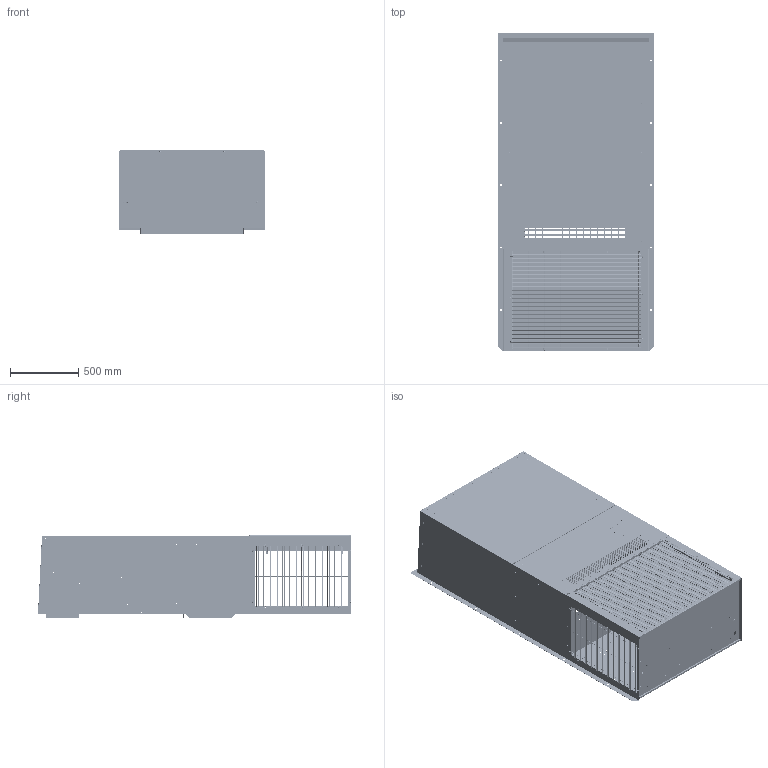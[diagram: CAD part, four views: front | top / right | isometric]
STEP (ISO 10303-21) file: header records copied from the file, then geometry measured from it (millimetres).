
FILE_DESCRIPTION (( 'STEP AP214' ), '1' );
FILE_NAME ('MAA1060.STEP', '2019-10-22T18:00:32', ( '' ), ( '' ), 'SwSTEP 2.0', 'SolidWorks 2016', '' );
FILE_SCHEMA (( 'AUTOMOTIVE_DESIGN' ));
Length unit declared in the file: inch
Products named in the file (19): COIL GUARD, AVHA24-HIGH PART 2-36H; COIL GUARD, AVHA24-HIGH PART 1-36H; 60407; SMM13004X; SMM16003X; SMM23001X_SMM23001X; SMM23000X; SMM22000X; SMM12002X; SMM16000X; SMM14000X_SMM14000X; SMM13003X_SMM13003X; SMM13002X_SMM13002X; SMM12000X; SMM10000X; MAA1060; d81396; 93251-vend; COIL GUARD, AVHA24-HIGH PART 3-36H
Assembly tree (28 placements, depth 3):
  MAA1060
    SMM10000X
    SMM12000X
    SMM13002X_SMM13002X
    SMM13003X_SMM13003X
    SMM14000X_SMM14000X
    SMM16000X
    SMM12002X  x2
    SMM22000X
    SMM23000X
    SMM23001X_SMM23001X
    SMM16003X
    SMM13004X
    60407
    93251-vend
      COIL GUARD, AVHA24-HIGH PART 1-36H
      COIL GUARD, AVHA24-HIGH PART 2-36H  x4
      COIL GUARD, AVHA24-HIGH PART 3-36H  x6
    d81396  x2
Bounding box: 1146.61 x 2336.43 x 618.62 mm (x, y, z)
Volume: 40696878.8 mm3; surface area: 27485156 mm2
Topology: 397 solids, 397 shells, 10138 faces, 25839 edges, 16308 vertices
Faces by surface type: cylinder 4982, plane 2602, cone 1372, bspline 926, torus 252, sphere 4
Entity records: 335725 total; most frequent: CARTESIAN_POINT 84987, DIRECTION 53217, ORIENTED_EDGE 50162, EDGE_CURVE 25081, AXIS2_PLACEMENT_3D 21222, VERTEX_POINT 15830, EDGE_LOOP 12459, CIRCLE 12378
